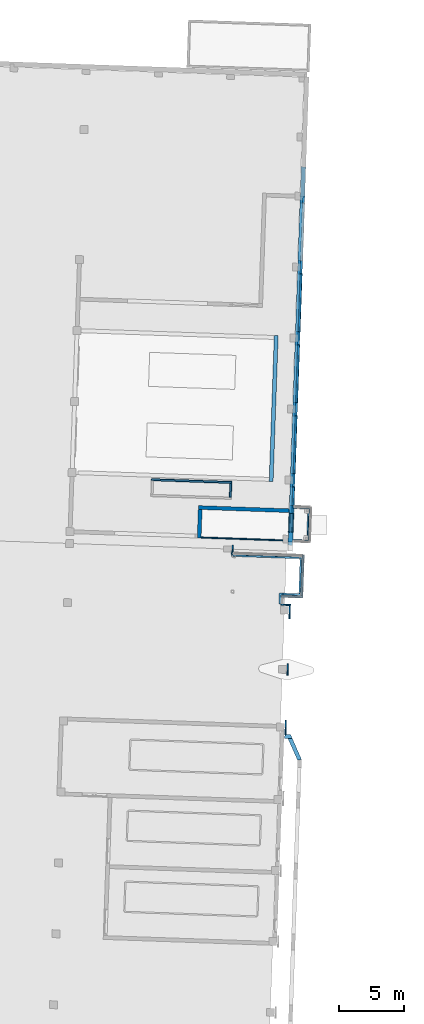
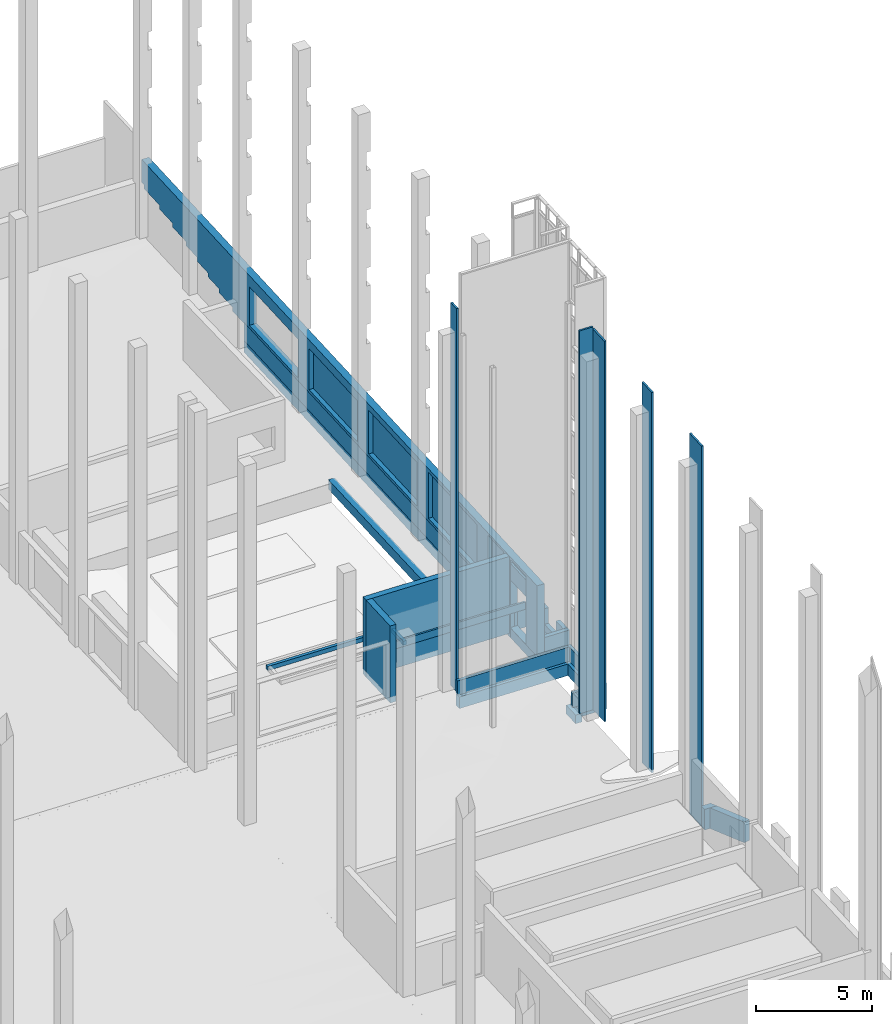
# One storey, part 37 of 44: 34 walls, 12 openings.
"""IFC2X3 building model written with IfcOpenShell, lengths in feet."""

from ifc_helpers import new_model, entity, si_unit, converted_unit, derived_unit, direction, frame, frame_2d, origin, origin_2d_with_axis, place, context, subcontext, project, spatial, polyline, rectangle, outline, extrude, clip, halfspace, material, layer, layer_set, layer_usage, type_object, element, save


model = new_model("IFC2X3")

# Units and contexts
model_context = context("Model", 3, precision=0.0001, world=origin(), true_north=direction((0.999390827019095, 0.0348994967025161)))
body_context = subcontext(model_context, "Body", "Model", "MODEL_VIEW")
ifc_project = project(units=[converted_unit("LENGTHUNIT", "FOOT", entity("IfcRatioMeasure", 0.3048), si_unit("LENGTHUNIT", "METRE"), dimensions=[1, 0, 0, 0, 0, 0, 0]), converted_unit("AREAUNIT", "SQUARE FOOT", entity("IfcRatioMeasure", 0.09290304), si_unit("AREAUNIT", "SQUARE_METRE"), dimensions=[2, 0, 0, 0, 0, 0, 0]), converted_unit("VOLUMEUNIT", "CUBIC FOOT", entity("IfcRatioMeasure", 0.028316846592), si_unit("VOLUMEUNIT", "CUBIC_METRE"), dimensions=[3, 0, 0, 0, 0, 0, 0]), converted_unit("PLANEANGLEUNIT", "DEGREE", entity("IfcRatioMeasure", 0.0174532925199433), si_unit("PLANEANGLEUNIT", "RADIAN"), dimensions=[0, 0, 0, 0, 0, 0, 0]), si_unit("MASSUNIT", "GRAM", prefix="KILO"), si_unit("TIMEUNIT", "SECOND"), si_unit("FREQUENCYUNIT", "HERTZ"), si_unit("THERMODYNAMICTEMPERATUREUNIT", "DEGREE_CELSIUS"), derived_unit("THERMALTRANSMITTANCEUNIT", [(si_unit("MASSUNIT", "GRAM", prefix="KILO"), 1), (si_unit("THERMODYNAMICTEMPERATUREUNIT", "KELVIN"), -1), (si_unit("TIMEUNIT", "SECOND"), -3)]), derived_unit("VOLUMETRICFLOWRATEUNIT", [(si_unit("LENGTHUNIT", "METRE"), 3), (si_unit("TIMEUNIT", "SECOND"), -1)]), si_unit("ELECTRICCURRENTUNIT", "AMPERE"), si_unit("ELECTRICVOLTAGEUNIT", "VOLT"), si_unit("POWERUNIT", "WATT"), si_unit("FORCEUNIT", "NEWTON"), si_unit("ILLUMINANCEUNIT", "LUX"), si_unit("LUMINOUSFLUXUNIT", "LUMEN"), si_unit("LUMINOUSINTENSITYUNIT", "CANDELA"), derived_unit("USERDEFINED", [(si_unit("MASSUNIT", "GRAM", prefix="KILO"), -1), (si_unit("LENGTHUNIT", "METRE"), -2), (si_unit("TIMEUNIT", "SECOND"), 3), (si_unit("LUMINOUSFLUXUNIT", "LUMEN"), 1)]), derived_unit("LINEARVELOCITYUNIT", [(si_unit("LENGTHUNIT", "METRE"), 1), (si_unit("TIMEUNIT", "SECOND"), -1)]), si_unit("PRESSUREUNIT", "PASCAL"), derived_unit("USERDEFINED", [(si_unit("LENGTHUNIT", "METRE"), -2), (si_unit("MASSUNIT", "GRAM", prefix="KILO"), 1), (si_unit("TIMEUNIT", "SECOND"), -2)])], contexts=[model_context])

# Site, building, storey
site_placement = place(None, frame((892.518771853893, 322.38689265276, 0.00393700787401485), z_axis=(0.0, 0.0, 1.0), x_axis=(0.0348994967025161, 0.999390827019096, 0.0)))
site = spatial("IfcSite", under=ifc_project, at=site_placement, Name="Default", CompositionType="ELEMENT")
building_placement = place(site_placement, origin())
building = spatial("IfcBuilding", under=site, at=building_placement, CompositionType="ELEMENT")
storey_placement = place(building_placement, frame((0.0, 0.0, 544.75)))
storey = spatial("IfcBuildingStorey", under=building, at=storey_placement, Name="Exist Garage - Ground Level", CompositionType="ELEMENT", Elevation=544.75)

# Wall, openings
ifc_material_1 = material(Name="Masonry - Brick")
ifc_layer_1 = layer(ifc_material_1, 0.302083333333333)
ifc_material_2 = material(Name="Misc. Air Layers - Air Space")
ifc_layer_2 = layer(ifc_material_2, 0.03125)
ifc_material_3 = material(Name="Concrete - Cast-in-Place Concrete_hatch surface")
ifc_layer_3 = layer(ifc_material_3, 0.833333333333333)
ifc_layer_set_1 = layer_set([ifc_layer_1, ifc_layer_2, ifc_layer_3], Name="Basic Wall:(existing)Exterior - Brick on Conc - 1'-2\"")
ifc_layer_usage_1 = layer_usage(ifc_layer_set_1, "AXIS2", "NEGATIVE", 0.583333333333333)
wall_type_1 = type_object("IfcWallType", Name="Basic Wall:(existing)Exterior - Brick on Conc - 1'-2\"", PredefinedType="STANDARD", material=ifc_layer_set_1)
wall_1_placement = place(storey_placement, frame((223.802293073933, 235.847286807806, 0.0), z_axis=(0.0, 0.0, 1.0), x_axis=(-1.0, 0.0, 0.0)))
wall_1 = element("IfcWallStandardCase", 1, at=wall_1_placement, inside=storey, type_object=wall_type_1, material=ifc_layer_usage_1, Name="Basic Wall:(existing)Exterior - Brick on Conc - 1'-2\"", ObjectType="Basic Wall:(existing)Exterior - Brick on Conc - 1'-2\"", context=body_context, shape_type="Clipping", body=[
    clip(clip(clip(extrude(rectangle(XDim=119.37687244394, YDim=1.16666666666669, at=frame_2d((59.68843622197, -1.16573417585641e-15), x_axis=(-1.0, 0.0))), origin(), (0.0, 0.0, 1.0), 12.2500000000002), halfspace(frame((30.8749999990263, 0.0, 2.30000000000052), z_axis=(-0.174095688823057, 0.0, -0.98472873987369), x_axis=(0.0, -1.0, 0.0)), False)), halfspace(frame((0.708333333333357, 0.0, 7.63333333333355), z_axis=(-0.685364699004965, 0.0, -0.728199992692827), x_axis=(0.0, -1.0, 0.0)), False)), halfspace(frame((47.375, 0.0, 0.0), z_axis=(-0.138059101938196, 0.0, -0.990423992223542), x_axis=(0.0, -1.0, 0.0)), False)),
])
opening_1_placement = place(wall_1_placement, origin())
element("IfcOpeningElement", 2, at=opening_1_placement, cuts=wall_1, Name="Basic Wall:(existing)Exterior - Brick on Conc - 1'-2\"", ObjectType="Opening", context=body_context, shape_type="SweptSolid", body=[
    extrude(rectangle(XDim=11.825, YDim=4.75093622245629, at=origin_2d_with_axis()), frame((113.668070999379, 0.583333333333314, 5.95416666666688), z_axis=(0.0, -1.0, 0.0), x_axis=(0.0, 0.0, 1.0)), (0.0, 0.0, 1.0), 1.16666666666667),
])
opening_2_placement = place(wall_1_placement, origin())
element("IfcOpeningElement", 3, at=opening_2_placement, cuts=wall_1, Name="Basic Wall:(existing)Exterior - Brick on Conc - 1'-2\"", ObjectType="Opening", context=body_context, shape_type="SweptSolid", body=[
    extrude(rectangle(XDim=8.22666666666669, YDim=4.75093622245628, at=frame_2d((0.0, 7.105427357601e-15), x_axis=(1.0, 0.0))), frame((106.917134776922, 0.583333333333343, 7.75333333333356), z_axis=(0.0, -1.0, 0.0), x_axis=(0.0, 0.0, 1.0)), (0.0, 0.0, 1.0), 1.16666666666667),
])
opening_3_placement = place(wall_1_placement, origin())
element("IfcOpeningElement", 4, at=opening_3_placement, cuts=wall_1, Name="Basic Wall:(existing)Exterior - Brick on Conc - 1'-2\"", ObjectType="Opening", context=body_context, shape_type="SweptSolid", body=[
    extrude(rectangle(XDim=8.00666666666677, YDim=14.6666666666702, at=frame_2d((-1.4210854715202e-14, -5.6843418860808e-14), x_axis=(0.0, 1.0))), frame((93.874999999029, 0.583333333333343, 7.64333333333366), z_axis=(0.0, -1.0, 0.0), x_axis=(1.0, 0.0, 0.0)), (0.0, 0.0, 1.0), 1.16666666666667),
])
opening_4_placement = place(wall_1_placement, origin())
element("IfcOpeningElement", 5, at=opening_4_placement, cuts=wall_1, Name="Basic Wall:(existing)Exterior - Brick on Conc - 1'-2\"", ObjectType="Opening", context=body_context, shape_type="SweptSolid", body=[
    extrude(rectangle(XDim=7.56666666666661, YDim=14.6666666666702, at=frame_2d((0.0, 0.0), x_axis=(0.0, 1.0))), frame((75.8749999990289, 0.583333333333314, 7.42333333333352), z_axis=(0.0, -1.0, 0.0), x_axis=(1.0, 0.0, 0.0)), (0.0, 0.0, 1.0), 1.16666666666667),
])
opening_5_placement = place(wall_1_placement, origin())
element("IfcOpeningElement", 6, at=opening_5_placement, cuts=wall_1, Name="Basic Wall:(existing)Exterior - Brick on Conc - 1'-2\"", ObjectType="Opening", context=body_context, shape_type="SweptSolid", body=[
    extrude(rectangle(XDim=7.11666666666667, YDim=14.6666666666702, at=frame_2d((0.0, 5.6843418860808e-14), x_axis=(0.0, 1.0))), frame((57.8749999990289, 0.583333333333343, 7.19833333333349), z_axis=(0.0, -1.0, 0.0), x_axis=(1.0, 0.0, 0.0)), (0.0, 0.0, 1.0), 1.16666666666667),
])
opening_6_placement = place(wall_1_placement, origin())
element("IfcOpeningElement", 7, at=opening_6_placement, cuts=wall_1, Name="Basic Wall:(existing)Exterior - Brick on Conc - 1'-2\"", ObjectType="Opening", context=body_context, shape_type="SweptSolid", body=[
    extrude(rectangle(XDim=6.66666666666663, YDim=14.6666666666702, at=frame_2d((0.0, -5.6843418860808e-14), x_axis=(0.0, 1.0))), frame((39.8749999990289, 0.583333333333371, 6.97333333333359), z_axis=(0.0, -1.0, 0.0), x_axis=(1.0, 0.0, 0.0)), (0.0, 0.0, 1.0), 1.16666666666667),
])
opening_7_placement = place(wall_1_placement, origin())
element("IfcOpeningElement", 8, at=opening_7_placement, cuts=wall_1, Name="Basic Wall:(existing)Exterior - Brick on Conc - 1'-2\"", ObjectType="Opening", context=body_context, shape_type="SweptSolid", body=[
    extrude(outline(polyline([(-1.53333333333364, -5.50000000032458), (0.766666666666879, -5.50000000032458), (0.766666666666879, 11.0), (-1.53333333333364, -5.50000000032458)])), frame((41.8749999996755, 0.583333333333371, 1.53333333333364), z_axis=(0.0, -1.0, 0.0), x_axis=(0.0, 0.0, 1.0)), (0.0, 0.0, 1.0), 1.16666666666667),
])
opening_8_placement = place(wall_1_placement, origin())
element("IfcOpeningElement", 9, at=opening_8_placement, cuts=wall_1, Name="Basic Wall:(existing)Exterior - Brick on Conc - 1'-2\"", ObjectType="Opening", context=body_context, shape_type="SweptSolid", body=[
    extrude(outline(polyline([(-2.82352941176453, -13.5980392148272), (-2.1568627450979, -13.5980392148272), (-2.1568627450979, -10.0980392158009), (-1.49019607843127, -10.0980392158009), (-1.49019607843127, -6.0980392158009), (-0.823529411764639, -6.0980392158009), (-0.823529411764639, -2.76470588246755), (-0.15686274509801, -2.76470588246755), (-0.15686274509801, 0.56862745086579), (0.509803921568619, 0.56862745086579), (0.509803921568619, 3.90196078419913), (1.17647058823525, 3.90196078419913), (1.17647058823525, 7.90196078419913), (1.84313725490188, 7.90196078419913), (1.84313725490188, 11.9019607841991), (2.5098039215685, 11.9019607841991), (2.5098039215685, 16.5686274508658), (-2.82352941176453, -13.5980392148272)])), frame((17.2769607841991, 0.583333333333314, 5.12352941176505), z_axis=(0.0, -1.0, 0.0), x_axis=(0.0, 0.0, 1.0)), (0.0, 0.0, 1.0), 1.16666666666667),
])
opening_9_placement = place(wall_1_placement, origin())
element("IfcOpeningElement", 10, at=opening_9_placement, cuts=wall_1, Name="Basic Wall:(existing)Exterior - Brick on Conc - 1'-2\"", ObjectType="Opening", context=body_context, shape_type="SweptSolid", body=[
    extrude(outline(polyline([(-0.444444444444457, -0.236111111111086), (0.222222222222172, -0.236111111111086), (0.222222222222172, 0.472222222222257), (-0.444444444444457, -0.236111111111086)])), frame((0.472222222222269, 0.583333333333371, 8.07777777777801), z_axis=(0.0, -1.0, 0.0), x_axis=(0.0, 0.0, 1.0)), (0.0, 0.0, 1.0), 1.16666666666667),
])

# Walls
ifc_layer_4 = layer(ifc_material_1, 0.302083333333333)
ifc_layer_set_2 = layer_set([ifc_layer_4], Name="Basic Wall:(Existing) Exterior - Brick Veneer 3 5/8\"")
ifc_layer_usage_2 = layer_usage(ifc_layer_set_2, "AXIS2", "POSITIVE", -0.151041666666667)
wall_type_2 = type_object("IfcWallType", Name="Basic Wall:(Existing) Exterior - Brick Veneer 3 5/8\"", PredefinedType="STANDARD", material=ifc_layer_set_2)
wall_2_placement = place(storey_placement, frame((102.177296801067, 250.418476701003, 0.0)))
element("IfcWallStandardCase", 11, at=wall_2_placement, inside=storey, type_object=wall_type_2, material=ifc_layer_usage_2, Name="Basic Wall:(Existing) Exterior - Brick Veneer 3 5/8\"", ObjectType="Basic Wall:(Existing) Exterior - Brick Veneer 3 5/8\"", context=body_context, shape_type="SweptSolid", body=[
    extrude(rectangle(XDim=1.75, YDim=0.302083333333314, at=frame_2d((0.875, 0.0), x_axis=(-1.0, 0.0))), origin(), (0.0, 0.0, 1.0), 66.25),
])
ifc_layer_usage_3 = layer_usage(ifc_layer_set_2, "AXIS2", "POSITIVE", -0.151041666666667)
wall_3_placement = place(storey_placement, frame((89.2762551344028, 235.566036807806, 0.0), z_axis=(0.0, 0.0, 1.0), x_axis=(0.0, 1.0, 0.0)))
element("IfcWallStandardCase", 12, at=wall_3_placement, inside=storey, type_object=wall_type_2, material=ifc_layer_usage_3, Name="Basic Wall:(Existing) Exterior - Brick Veneer 3 5/8\"", ObjectType="Basic Wall:(Existing) Exterior - Brick Veneer 3 5/8\"", context=body_context, shape_type="SweptSolid", body=[
    extrude(rectangle(XDim=2.15625000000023, YDim=0.302083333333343, at=frame_2d((1.07812500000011, 0.0), x_axis=(-1.0, 0.0))), origin(), (0.0, 0.0, 1.0), 66.25),
])
ifc_layer_usage_4 = layer_usage(ifc_layer_set_2, "AXIS2", "POSITIVE", -0.151041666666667)
wall_4_placement = place(storey_placement, frame((85.7606301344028, 235.41499514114, 0.0)))
element("IfcWallStandardCase", 13, at=wall_4_placement, inside=storey, type_object=wall_type_2, material=ifc_layer_usage_4, Name="Basic Wall:(Existing) Exterior - Brick Veneer 3 5/8\"", ObjectType="Basic Wall:(Existing) Exterior - Brick Veneer 3 5/8\"", context=body_context, shape_type="SweptSolid", body=[
    extrude(rectangle(XDim=3.66666666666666, YDim=0.302083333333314, at=frame_2d((1.83333333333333, 0.0), x_axis=(-1.0, 0.0))), origin(), (0.0, 0.0, 1.0), 65.8125),
])
ifc_layer_usage_5 = layer_usage(ifc_layer_set_2, "AXIS2", "POSITIVE", -0.151041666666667)
wall_5_placement = place(storey_placement, frame((56.4272542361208, 235.41499514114, 0.0)))
element("IfcWallStandardCase", 14, at=wall_5_placement, inside=storey, type_object=wall_type_2, material=ifc_layer_usage_5, Name="Basic Wall:(Existing) Exterior - Brick Veneer 3 5/8\"", ObjectType="Basic Wall:(Existing) Exterior - Brick Veneer 3 5/8\"", context=body_context, shape_type="SweptSolid", body=[
    extrude(rectangle(XDim=3.66666666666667, YDim=0.302083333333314, at=frame_2d((1.83333333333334, 0.0), x_axis=(-1.0, 0.0))), origin(), (0.0, 0.0, 1.0), 65.8125),
])
ifc_layer_usage_6 = layer_usage(ifc_layer_set_2, "AXIS2", "POSITIVE", -0.151041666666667)
wall_6_placement = place(storey_placement, frame((71.4272968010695, 235.41499514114, 0.0)))
element("IfcWallStandardCase", 15, at=wall_6_placement, inside=storey, type_object=wall_type_2, material=ifc_layer_usage_6, Name="Basic Wall:(Existing) Exterior - Brick Veneer 3 5/8\"", ObjectType="Basic Wall:(Existing) Exterior - Brick Veneer 3 5/8\"", context=body_context, shape_type="SweptSolid", body=[
    extrude(rectangle(XDim=3.00000000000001, YDim=0.302083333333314, at=frame_2d((1.50000000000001, 0.0), x_axis=(-1.0, 0.0))), origin(), (0.0, 0.0, 1.0), 65.8125),
])
ifc_layer_5 = layer(ifc_material_1, 0.302083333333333)
ifc_material_4 = material(Name="Insulation / Thermal Barriers - Rigid insulation")
ifc_layer_6 = layer(ifc_material_4, 0.0625)
ifc_material_5 = material(Name="Masonry - Concrete Masonry Units")
ifc_layer_7 = layer(ifc_material_5, 0.635416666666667)
ifc_layer_set_3 = layer_set([ifc_layer_5, ifc_layer_6, ifc_layer_7], Name="Basic Wall:(existing) Exterior - Brick on CMU - 1'-0\"")
ifc_layer_usage_7 = layer_usage(ifc_layer_set_3, "AXIS2", "NEGATIVE", 0.5)
wall_type_3 = type_object("IfcWallType", Name="Basic Wall:(existing) Exterior - Brick on CMU - 1'-0\"", PredefinedType="STANDARD", material=ifc_layer_set_3)
wall_7_placement = place(storey_placement, frame((55.9272542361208, 235.566036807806, 0.0), z_axis=(0.0, 0.0, 1.0), x_axis=(0.0, -1.0, 0.0)))
element("IfcWallStandardCase", 16, at=wall_7_placement, inside=storey, type_object=wall_type_3, material=ifc_layer_usage_7, Name="Basic Wall:(existing) Exterior - Brick on CMU - 1'-0\"", ObjectType="Basic Wall:(existing) Exterior - Brick on CMU - 1'-0\"", context=body_context, shape_type="SweptSolid", body=[
    extrude(outline(polyline([(1.95523648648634, -0.5), (1.46874999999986, 0.5), (0.302083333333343, 0.5), (0.0, 0.5), (0.0, -0.5), (0.843180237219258, -0.5), (1.95523648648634, -0.5)])), origin(), (0.0, 0.0, 1.0), 3.580078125),
])
ifc_layer_usage_8 = layer_usage(ifc_layer_set_3, "AXIS2", "NEGATIVE", 0.5)
wall_8_placement = place(storey_placement, frame((55.6459870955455, 234.273239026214, 0.0), z_axis=(0.0, 0.0, 1.0), x_axis=(-0.899235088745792, -0.437465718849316, 0.0)))
element("IfcWallStandardCase", 17, at=wall_8_placement, inside=storey, type_object=wall_type_3, material=ifc_layer_usage_8, Name="Basic Wall:(existing) Exterior - Brick on CMU - 1'-0\"", ObjectType="Basic Wall:(existing) Exterior - Brick on CMU - 1'-0\"", context=body_context, shape_type="SweptSolid", body=[
    extrude(outline(polyline([(6.00177259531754, -0.5), (6.2321104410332, 0.500000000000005), (0.486486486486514, 0.500000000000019), (0.0, -0.500000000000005), (6.00177259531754, -0.5)])), origin(), (0.0, 0.0, 1.0), 3.580078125),
])

# Wall, opening
ifc_material_6 = material(Name="Concrete - Cast-in-Place Concrete")
ifc_layer_8 = layer(ifc_material_6, 1.16666666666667)
ifc_layer_set_4 = layer_set([ifc_layer_8], Name="Basic Wall:(existing) Exterior - Below Grade Conc 14\"")
ifc_layer_usage_9 = layer_usage(ifc_layer_set_4, "AXIS2", "NEGATIVE", 0.583333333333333)
wall_type_4 = type_object("IfcWallType", Name="Basic Wall:(existing) Exterior - Below Grade Conc 14\"", PredefinedType="STANDARD", material=ifc_layer_set_4)
wall_9_placement = place(storey_placement, frame((192.927293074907, 235.847286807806, -2.01999999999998), z_axis=(0.0, 0.0, 1.0), x_axis=(-1.0, 0.0, 0.0)))
wall_9 = element("IfcWallStandardCase", 18, at=wall_9_placement, inside=storey, type_object=wall_type_4, material=ifc_layer_usage_9, Name="Basic Wall:(existing) Exterior - Below Grade Conc 14\"", ObjectType="Basic Wall:(existing) Exterior - Below Grade Conc 14\"", context=body_context, shape_type="Clipping", body=[
    clip(extrude(rectangle(XDim=80.4176028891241, YDim=1.16666666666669, at=frame_2d((40.2088014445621, 0.0), x_axis=(-1.0, 0.0))), origin(), (0.0, 0.0, 1.0), 2.01999999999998), halfspace(frame((68.0009362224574, 0.0, 0.0), z_axis=(0.0284448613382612, 0.0, -0.999595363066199), x_axis=(0.0, 1.0, 0.0)), False)),
])
opening_10_placement = place(wall_9_placement, origin())
element("IfcOpeningElement", 19, at=opening_10_placement, cuts=wall_9, Name="Basic Wall:(existing) Exterior - Below Grade Conc 14\"", ObjectType="Opening", context=body_context, shape_type="SweptSolid", body=[
    extrude(outline(polyline([(-4.14391448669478, -0.117730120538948), (8.27777845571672, -0.117730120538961), (-4.13386396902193, 0.235460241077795), (-4.14391448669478, -0.117730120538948)])), frame((72.1398251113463, 0.583333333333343, 0.235555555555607), z_axis=(0.0, -1.0, 0.0), x_axis=(0.999595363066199, 0.0, 0.0284448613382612)), (0.0, 0.0, 1.0), 1.16666666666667),
])

# Walls
ifc_layer_usage_10 = layer_usage(ifc_layer_set_4, "AXIS2", "POSITIVE", -0.583333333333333)
wall_10_placement = place(storey_placement, frame((105.260626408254, 235.847286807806, -1.66666666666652)))
element("IfcWallStandardCase", 20, at=wall_10_placement, inside=storey, type_object=wall_type_4, material=ifc_layer_usage_10, Name="Basic Wall:(existing) Exterior - Below Grade Conc 14\"", ObjectType="Basic Wall:(existing) Exterior - Below Grade Conc 14\"", context=body_context, shape_type="SweptSolid", body=[
    extrude(rectangle(XDim=7.24906377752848, YDim=1.16666666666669, at=frame_2d((3.62453188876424, 0.0), x_axis=(-1.0, 0.0))), origin(), (0.0, 0.0, 1.0), 1.66666666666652),
])
ifc_layer_9 = layer(ifc_material_3, 0.5)
ifc_layer_set_5 = layer_set([ifc_layer_9], Name="Basic Wall:(existing)Exterior - 6\" Conc")
ifc_layer_usage_11 = layer_usage(ifc_layer_set_5, "AXIS2", "NEGATIVE", 0.25)
wall_type_5 = type_object("IfcWallType", Name="Basic Wall:(existing)Exterior - 6\" Conc", PredefinedType="STANDARD", material=ifc_layer_set_5)
wall_11_placement = place(storey_placement, frame((91.4897968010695, 232.263953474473, -0.25), z_axis=(0.0, 0.0, 1.0), x_axis=(0.0, 1.0, 0.0)))
element("IfcWallStandardCase", 21, at=wall_11_placement, inside=storey, type_object=wall_type_5, material=ifc_layer_usage_11, Name="Basic Wall:(existing)Exterior - 6\" Conc", ObjectType="Basic Wall:(existing)Exterior - 6\" Conc", context=body_context, shape_type="SweptSolid", body=[
    extrude(rectangle(XDim=5.45833333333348, YDim=0.5, at=frame_2d((2.72916666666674, 0.0), x_axis=(-1.0, 0.0))), origin(), (0.0, 0.0, 1.0), 2.5),
])
ifc_layer_usage_12 = layer_usage(ifc_layer_set_5, "AXIS2", "POSITIVE", -0.25)
wall_12_placement = place(storey_placement, frame((91.7397968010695, 232.513953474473, -0.25)))
element("IfcWallStandardCase", 22, at=wall_12_placement, inside=storey, type_object=wall_type_5, material=ifc_layer_usage_12, Name="Basic Wall:(existing)Exterior - 6\" Conc", ObjectType="Basic Wall:(existing)Exterior - 6\" Conc", context=body_context, shape_type="SweptSolid", body=[
    extrude(rectangle(XDim=10.3333333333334, YDim=0.5, at=frame_2d((5.16666666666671, -6.80011602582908e-16), x_axis=(-1.0, 0.0))), origin(), (0.0, 0.0, 1.0), 2.5),
])
ifc_layer_usage_13 = layer_usage(ifc_layer_set_5, "AXIS2", "POSITIVE", -0.25)
wall_13_placement = place(storey_placement, frame((101.823130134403, 232.763953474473, -0.25), z_axis=(0.0, 0.0, 1.0), x_axis=(0.0, 1.0, 0.0)))
element("IfcWallStandardCase", 23, at=wall_13_placement, inside=storey, type_object=wall_type_5, material=ifc_layer_usage_13, Name="Basic Wall:(existing)Exterior - 6\" Conc", ObjectType="Basic Wall:(existing)Exterior - 6\" Conc", context=body_context, shape_type="SweptSolid", body=[
    extrude(rectangle(XDim=17.9166666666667, YDim=0.5, at=frame_2d((8.95833333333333, -3.88578058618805e-16), x_axis=(-1.0, 0.0))), origin(), (0.0, 0.0, 1.0), 2.5),
])
ifc_layer_10 = layer(ifc_material_3, 1.0)
ifc_layer_set_6 = layer_set([ifc_layer_10], Name="Basic Wall:(existing)Exterior - 12\" Conc")
ifc_layer_usage_14 = layer_usage(ifc_layer_set_6, "AXIS2", "POSITIVE", -0.5)
wall_type_6 = type_object("IfcWallType", Name="Basic Wall:(existing)Exterior - 12\" Conc", PredefinedType="STANDARD", material=ifc_layer_set_6)
wall_14_placement = place(storey_placement, frame((89.4272968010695, 237.722286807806, -1.75)))
element("IfcWallStandardCase", 24, at=wall_14_placement, inside=storey, type_object=wall_type_6, material=ifc_layer_usage_14, Name="Basic Wall:(existing)Exterior - 12\" Conc", ObjectType="Basic Wall:(existing)Exterior - 12\" Conc", context=body_context, shape_type="SweptSolid", body=[
    extrude(rectangle(XDim=2.81250000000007, YDim=1.0, at=frame_2d((1.40625000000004, 0.0), x_axis=(-1.0, 0.0))), origin(), (0.0, 0.0, 1.0), 1.5),
])
ifc_layer_usage_15 = layer_usage(ifc_layer_set_6, "AXIS2", "POSITIVE", -0.5)
wall_15_placement = place(storey_placement, frame((91.7397968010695, 237.222286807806, -2.25), z_axis=(0.0, 0.0, 1.0), x_axis=(0.0, -1.0, 0.0)))
element("IfcWallStandardCase", 25, at=wall_15_placement, inside=storey, type_object=wall_type_6, material=ifc_layer_usage_15, Name="Basic Wall:(existing)Exterior - 12\" Conc", ObjectType="Basic Wall:(existing)Exterior - 12\" Conc", context=body_context, shape_type="SweptSolid", body=[
    extrude(rectangle(XDim=4.95833333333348, YDim=1.0, at=frame_2d((2.47916666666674, 0.0), x_axis=(-1.0, 0.0))), origin(), (0.0, 0.0, 1.0), 2.0),
])
ifc_layer_usage_16 = layer_usage(ifc_layer_set_6, "AXIS2", "POSITIVE", -0.5)
wall_16_placement = place(storey_placement, frame((92.2397968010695, 232.763953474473, -2.25)))
element("IfcWallStandardCase", 26, at=wall_16_placement, inside=storey, type_object=wall_type_6, material=ifc_layer_usage_16, Name="Basic Wall:(existing)Exterior - 12\" Conc", ObjectType="Basic Wall:(existing)Exterior - 12\" Conc", context=body_context, shape_type="SweptSolid", body=[
    extrude(rectangle(XDim=9.85416666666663, YDim=1.0, at=frame_2d((4.92708333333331, -1.33226762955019e-15), x_axis=(-1.0, 0.0))), origin(), (0.0, 0.0, 1.0), 2.0),
])
ifc_layer_usage_17 = layer_usage(ifc_layer_set_6, "AXIS2", "POSITIVE", -0.5)
wall_17_placement = place(storey_placement, frame((101.593963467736, 233.263953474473, -2.25), z_axis=(0.0, 0.0, 1.0), x_axis=(0.0, 1.0, 0.0)))
element("IfcWallStandardCase", 27, at=wall_17_placement, inside=storey, type_object=wall_type_6, material=ifc_layer_usage_17, Name="Basic Wall:(existing)Exterior - 12\" Conc", ObjectType="Basic Wall:(existing)Exterior - 12\" Conc", context=body_context, shape_type="SweptSolid", body=[
    extrude(rectangle(XDim=17.4166666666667, YDim=1.0, at=frame_2d((8.70833333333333, -7.7715611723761e-16), x_axis=(-1.0, 0.0))), origin(), (0.0, 0.0, 1.0), 2.0),
])
ifc_layer_11 = layer(ifc_material_5, 0.96875)
ifc_layer_set_7 = layer_set([ifc_layer_11], Name="Basic Wall:Interior - (C12) 12\" cmu")
ifc_layer_usage_18 = layer_usage(ifc_layer_set_7, "AXIS2", "NEGATIVE", 0.484375)
wall_type_7 = type_object("IfcWallType", Name="Basic Wall:Interior - (C12) 12\" cmu", PredefinedType="STANDARD", material=ifc_layer_set_7)
wall_18_placement = place(storey_placement, frame((113.1786396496, 236.493120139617, -1.0776113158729), z_axis=(0.0, 0.0, 1.0), x_axis=(0.0, 1.0, 0.0)))
element("IfcWallStandardCase", 28, at=wall_18_placement, inside=storey, type_object=wall_type_7, material=ifc_layer_usage_18, Name="Basic Wall:Interior - (C12) 12\" cmu", ObjectType="Basic Wall:Interior - (C12) 12\" cmu", context=body_context, shape_type="SweptSolid", body=[
    extrude(rectangle(XDim=22.9840452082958, YDim=0.96875, at=frame_2d((11.4920226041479, 3.3584246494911e-15), x_axis=(-1.0, 0.0))), origin(), (0.0, 0.0, 1.0), 13.3276113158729),
])
ifc_layer_usage_19 = layer_usage(ifc_layer_set_7, "AXIS2", "NEGATIVE", 0.484375)
wall_19_placement = place(storey_placement, frame((112.6942646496, 258.992790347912, -1.0776113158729), z_axis=(0.0, 0.0, 1.0), x_axis=(-1.0, 0.0, 0.0)))
element("IfcWallStandardCase", 29, at=wall_19_placement, inside=storey, type_object=wall_type_7, material=ifc_layer_usage_19, Name="Basic Wall:Interior - (C12) 12\" cmu", ObjectType="Basic Wall:Interior - (C12) 12\" cmu", context=body_context, shape_type="SweptSolid", body=[
    extrude(rectangle(XDim=7.2513465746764, YDim=0.96875, at=frame_2d((3.6256732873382, 9.82547376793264e-15), x_axis=(-1.0, 0.0))), origin(), (0.0, 0.0, 1.0), 13.3276113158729),
])
ifc_layer_12 = layer(ifc_material_6, 0.666666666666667)
ifc_layer_set_8 = layer_set([ifc_layer_12], Name="Basic Wall:Exterior - Conc 8\"")
ifc_layer_usage_20 = layer_usage(ifc_layer_set_8, "AXIS2", "NEGATIVE", 0.333333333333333)
wall_type_8 = type_object("IfcWallType", Name="Basic Wall:Exterior - Conc 8\"", PredefinedType="STANDARD", material=ifc_layer_set_8)
wall_20_placement = place(storey_placement, frame((114.093963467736, 235.498328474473, -1.66666666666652), z_axis=(0.0, 0.0, 1.0), x_axis=(0.0, -1.0, 0.0)))
element("IfcWallStandardCase", 30, at=wall_20_placement, inside=storey, type_object=wall_type_8, material=ifc_layer_usage_20, Name="Basic Wall:Exterior - Conc 8\"", ObjectType="Basic Wall:Exterior - Conc 8\"", context=body_context, shape_type="SweptSolid", body=[
    extrude(rectangle(XDim=4.73437500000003, YDim=0.666666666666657, at=frame_2d((2.36718750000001, 0.0), x_axis=(-1.0, 0.0))), origin(), (0.0, 0.0, 1.0), 3.91666666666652),
])
ifc_layer_usage_21 = layer_usage(ifc_layer_set_8, "AXIS2", "NEGATIVE", 0.333333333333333)
wall_21_placement = place(storey_placement, frame((105.593959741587, 230.763953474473, -1.66666666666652), z_axis=(0.0, 0.0, 1.0), x_axis=(0.0, 1.0, 0.0)))
element("IfcWallStandardCase", 31, at=wall_21_placement, inside=storey, type_object=wall_type_8, material=ifc_layer_usage_21, Name="Basic Wall:Exterior - Conc 8\"", ObjectType="Basic Wall:Exterior - Conc 8\"", context=body_context, shape_type="SweptSolid", body=[
    extrude(rectangle(XDim=4.50000000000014, YDim=0.666666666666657, at=frame_2d((2.25000000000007, 0.0), x_axis=(-1.0, 0.0))), origin(), (0.0, 0.0, 1.0), 3.91666666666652),
])
ifc_layer_usage_22 = layer_usage(ifc_layer_set_8, "AXIS2", "NEGATIVE", 0.333333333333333)
wall_22_placement = place(storey_placement, frame((192.927293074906, 236.097286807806, 0.0), z_axis=(0.0, 0.0, 1.0), x_axis=(-1.0, 0.0, 0.0)))
element("IfcWallStandardCase", 32, at=wall_22_placement, inside=storey, type_object=wall_type_8, material=ifc_layer_usage_22, Name="Basic Wall:Exterior - Conc 8\"", ObjectType="Basic Wall:Exterior - Conc 8\"", context=body_context, shape_type="SweptSolid", body=[
    extrude(rectangle(XDim=80.4176028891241, YDim=0.666666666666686, at=frame_2d((40.208801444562, 0.0), x_axis=(-1.0, 0.0))), origin(), (0.0, 0.0, 1.0), 3.14583333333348),
])

# Wall, opening
ifc_layer_usage_23 = layer_usage(ifc_layer_set_8, "AXIS2", "NEGATIVE", 0.333333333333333)
wall_23_placement = place(storey_placement, frame((113.760630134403, 231.097286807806, -1.66666666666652), z_axis=(0.0, 0.0, 1.0), x_axis=(-1.0, 0.0, 0.0)))
wall_23 = element("IfcWallStandardCase", 33, at=wall_23_placement, inside=storey, type_object=wall_type_8, material=ifc_layer_usage_23, Name="Basic Wall:Exterior - Conc 8\"", ObjectType="Basic Wall:Exterior - Conc 8\"", context=body_context, shape_type="SweptSolid", body=[
    extrude(rectangle(XDim=7.83333705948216, YDim=0.666666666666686, at=frame_2d((3.91666852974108, 4.32986979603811e-15), x_axis=(-1.0, 0.0))), origin(), (0.0, 0.0, 1.0), 3.91666666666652),
])
opening_11_placement = place(wall_23_placement, origin())
element("IfcOpeningElement", 34, at=opening_11_placement, cuts=wall_23, Name="Basic Wall:Exterior - Conc 8\"", ObjectType="Opening", context=body_context, shape_type="SweptSolid", body=[
    extrude(rectangle(XDim=2.70833333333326, YDim=3.41666666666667, at=frame_2d((-7.105427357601e-15, 0.0), x_axis=(0.0, 1.0))), frame((3.91666852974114, 0.333333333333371, 2.56249999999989), z_axis=(0.0, -1.0, 0.0), x_axis=(-1.0, 0.0, 0.0)), (0.0, 0.0, 1.0), 0.666666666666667),
])

ifc_layer_13 = layer(ifc_material_6, 1.0)
ifc_layer_set_9 = layer_set([ifc_layer_13], Name="Basic Wall:Exterior - Below Grade Conc 12\"")
ifc_layer_usage_24 = layer_usage(ifc_layer_set_9, "AXIS2", "NEGATIVE", 0.5)
wall_type_9 = type_object("IfcWallType", Name="Basic Wall:Exterior - Below Grade Conc 12\"", PredefinedType="STANDARD", material=ifc_layer_set_9)
wall_24_placement = place(storey_placement, frame((157.427386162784, 241.263953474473, -2.0), z_axis=(0.0, 0.0, 1.0), x_axis=(-1.0, 0.0, 0.0)))
wall_24 = element("IfcWallStandardCase", 35, at=wall_24_placement, inside=storey, type_object=wall_type_9, material=ifc_layer_usage_24, Name="Basic Wall:Exterior - Below Grade Conc 12\"", ObjectType="Basic Wall:Exterior - Below Grade Conc 12\"", context=body_context, shape_type="Clipping", body=[
    clip(clip(extrude(rectangle(XDim=37.0, YDim=1.0, at=frame_2d((18.5, 1.55431223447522e-15), x_axis=(-1.0, 0.0))), origin(), (0.0, 0.0, 1.0), 1.7756663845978), halfspace(frame((0.0, -0.5, 1.62088154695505), z_axis=(-0.00418333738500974, 0.0, 0.999991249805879), x_axis=(0.0, 1.0, 0.0)), False)), halfspace(frame((32.5, 0.0, 0.0), z_axis=(0.083045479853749, 0.0, -0.996545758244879), x_axis=(0.0, 1.0, 0.0)), False)),
])
opening_12_placement = place(wall_24_placement, origin())
element("IfcOpeningElement", 36, at=opening_12_placement, cuts=wall_24, Name="Basic Wall:Exterior - Below Grade Conc 12\"", ObjectType="Opening", context=body_context, shape_type="SweptSolid", body=[
    extrude(outline(polyline([(-1.34718222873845, -0.110727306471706), (2.666682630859, -0.110727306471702), (-1.31950040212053, 0.221454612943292), (-1.34718222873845, -0.110727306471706)])), frame((33.8333333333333, 0.5, 0.222222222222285), z_axis=(0.0, -1.0, 0.0), x_axis=(0.996545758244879, 0.0, 0.083045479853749)), (0.0, 0.0, 1.0), 1.0),
])

# Walls
ifc_layer_usage_25 = layer_usage(ifc_layer_set_9, "AXIS2", "NEGATIVE", 0.5)
wall_25_placement = place(storey_placement, frame((114.427296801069, 231.263953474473, -4.16666666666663), z_axis=(0.0, 0.0, 1.0), x_axis=(-1.0, 0.0, 0.0)))
element("IfcWallStandardCase", 37, at=wall_25_placement, inside=storey, type_object=wall_type_9, material=ifc_layer_usage_25, Name="Basic Wall:Exterior - Below Grade Conc 12\"", ObjectType="Basic Wall:Exterior - Below Grade Conc 12\"", context=body_context, shape_type="SweptSolid", body=[
    extrude(rectangle(XDim=9.1666703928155, YDim=1.0, at=frame_2d((4.58333519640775, 7.49400541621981e-15), x_axis=(-1.0, 0.0))), origin(), (0.0, 0.0, 1.0), 2.5),
])
ifc_layer_14 = layer(ifc_material_6, 0.5)
ifc_layer_set_10 = layer_set([ifc_layer_14], Name="Basic Wall:Exterior - Conc 6\"")
ifc_layer_usage_26 = layer_usage(ifc_layer_set_10, "AXIS2", "NEGATIVE", 0.25)
wall_type_10 = type_object("IfcWallType", Name="Basic Wall:Exterior - Conc 6\"", PredefinedType="STANDARD", material=ifc_layer_set_10)
wall_26_placement = place(storey_placement, frame((119.81685518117, 271.594836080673, -0.237229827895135), z_axis=(0.0, 0.0, 1.0), x_axis=(0.0, -1.0, 0.0)))
element("IfcWallStandardCase", 38, at=wall_26_placement, inside=storey, type_object=wall_type_10, material=ifc_layer_usage_26, Name="Basic Wall:Exterior - Conc 6\"", ObjectType="Basic Wall:Exterior - Conc 6\"", context=body_context, shape_type="SweptSolid", body=[
    extrude(rectangle(XDim=20.375, YDim=0.5, at=frame_2d((10.1875, 7.21644966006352e-16), x_axis=(-1.0, 0.0))), origin(), (0.0, 0.0, 1.0), 0.737229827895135),
])
ifc_layer_usage_27 = layer_usage(ifc_layer_set_10, "AXIS2", "NEGATIVE", 0.25)
wall_27_placement = place(storey_placement, frame((119.56685518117, 251.469836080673, -0.213136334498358), z_axis=(0.0, 0.0, 1.0), x_axis=(-1.0, 0.0, 0.0)))
element("IfcWallStandardCase", 39, at=wall_27_placement, inside=storey, type_object=wall_type_10, material=ifc_layer_usage_27, Name="Basic Wall:Exterior - Conc 6\"", ObjectType="Basic Wall:Exterior - Conc 6\"", context=body_context, shape_type="SweptSolid", body=[
    extrude(rectangle(XDim=3.50000000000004, YDim=0.5, at=frame_2d((1.75000000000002, 0.0), x_axis=(-1.0, 0.0))), origin(), (0.0, 0.0, 1.0), 0.713136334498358),
])
ifc_material_7 = material(Name="Finishes - Interior - Gypsum Wall Board")
ifc_layer_15 = layer(ifc_material_7, 0.0833333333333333)
ifc_material_8 = material(Name="Metal - Stud Layer_rated")
ifc_layer_16 = layer(ifc_material_8, 0.125)
ifc_layer_17 = layer(ifc_material_7, 0.0520833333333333)
ifc_layer_18 = layer(ifc_material_7, 0.0520833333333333)
ifc_layer_set_11 = layer_set([ifc_layer_15, ifc_layer_16, ifc_layer_17, ifc_layer_18], Name="Basic Wall:Interior - (S4) 2 hour rated shaft wall")
ifc_layer_usage_28 = layer_usage(ifc_layer_set_11, "AXIS2", "NEGATIVE", 0.15625)
wall_type_11 = type_object("IfcWallType", Name="Basic Wall:Interior - (S4) 2 hour rated shaft wall", PredefinedType="STANDARD", material=ifc_layer_set_11)
wall_28_placement = place(storey_placement, frame((105.599168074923, 258.508415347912, 8.0), z_axis=(0.0, 0.0, 1.0), x_axis=(0.0, -1.0, 0.0)))
element("IfcWallStandardCase", 40, at=wall_28_placement, inside=storey, type_object=wall_type_11, material=ifc_layer_usage_28, Name="Basic Wall:Interior - (S4) 2 hour rated shaft wall", ObjectType="Basic Wall:Interior - (S4) 2 hour rated shaft wall", context=body_context, shape_type="SweptSolid", body=[
    extrude(rectangle(XDim=20.7444618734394, YDim=0.3125, at=frame_2d((10.3722309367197, 1.2490009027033e-16), x_axis=(-1.0, 0.0))), origin(), (0.0, 0.0, 1.0), 1.27994791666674),
])
ifc_layer_usage_29 = layer_usage(ifc_layer_set_11, "AXIS2", "NEGATIVE", 0.15625)
wall_29_placement = place(storey_placement, frame((107.758753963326, 235.420203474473, 8.0)))
element("IfcWallStandardCase", 41, at=wall_29_placement, inside=storey, type_object=wall_type_11, material=ifc_layer_usage_29, Name="Basic Wall:Interior - (S4) 2 hour rated shaft wall", ObjectType="Basic Wall:Interior - (S4) 2 hour rated shaft wall", context=body_context, shape_type="SweptSolid", body=[
    extrude(rectangle(XDim=4.75093622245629, YDim=0.3125, at=frame_2d((2.37546811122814, -2.12330153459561e-15), x_axis=(-1.0, 0.0))), origin(), (0.0, 0.0, 1.0), 3.19791666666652),
])
ifc_layer_usage_30 = layer_usage(ifc_layer_set_11, "AXIS2", "POSITIVE", -0.15625)
wall_30_placement = place(storey_placement, frame((107.758753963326, 236.27437014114, 8.3125)))
element("IfcWallStandardCase", 42, at=wall_30_placement, inside=storey, type_object=wall_type_11, material=ifc_layer_usage_30, Name="Basic Wall:Interior - (S4) 2 hour rated shaft wall", ObjectType="Basic Wall:Interior - (S4) 2 hour rated shaft wall", context=body_context, shape_type="SweptSolid", body=[
    extrude(rectangle(XDim=4.75093622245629, YDim=0.3125, at=frame_2d((2.37546811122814, -4.9960036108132e-15), x_axis=(-1.0, 0.0))), origin(), (0.0, 0.0, 1.0), 2.88541666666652),
])
ifc_material_9 = material(Name="Masonry - Concrete Masonry Units_rated")
ifc_layer_19 = layer(ifc_material_9, 0.46875)
ifc_layer_set_12 = layer_set([ifc_layer_19], Name="Basic Wall:Interior - (C6) 6\" cmu_rated 2")
ifc_layer_usage_31 = layer_usage(ifc_layer_set_12, "AXIS2", "POSITIVE", -0.234375)
wall_type_12 = type_object("IfcWallType", Name="Basic Wall:Interior - (C6) 6\" cmu_rated 2", PredefinedType="STANDARD", material=ifc_layer_set_12)
wall_31_placement = place(storey_placement, frame((114.427293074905, 235.498328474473, 3.63999999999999)))
element("IfcWallStandardCase", 43, at=wall_31_placement, inside=storey, type_object=wall_type_12, material=ifc_layer_usage_31, Name="Basic Wall:Interior - (C6) 6\" cmu_rated 2", ObjectType="Basic Wall:Interior - (C6) 6\" cmu_rated 2", context=body_context, shape_type="SweptSolid", body=[
    extrude(rectangle(XDim=4.83333333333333, YDim=0.46875, at=frame_2d((2.41666666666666, -6.93889390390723e-16), x_axis=(-1.0, 0.0))), origin(), (0.0, 0.0, 1.0), 7.55791666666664),
])
ifc_layer_usage_32 = layer_usage(ifc_layer_set_12, "AXIS2", "POSITIVE", -0.234375)
wall_32_placement = place(storey_placement, frame((122.593959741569, 235.498328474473, 3.63999999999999)))
element("IfcWallStandardCase", 44, at=wall_32_placement, inside=storey, type_object=wall_type_12, material=ifc_layer_usage_32, Name="Basic Wall:Interior - (C6) 6\" cmu_rated 2", ObjectType="Basic Wall:Interior - (C6) 6\" cmu_rated 2", context=body_context, shape_type="SweptSolid", body=[
    extrude(rectangle(XDim=14.6666666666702, YDim=0.46875, at=frame_2d((7.33333333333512, 0.0), x_axis=(-1.0, 0.0))), origin(), (0.0, 0.0, 1.0), 7.3287499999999),
])
ifc_layer_usage_33 = layer_usage(ifc_layer_set_12, "AXIS2", "POSITIVE", -0.234375)
wall_33_placement = place(storey_placement, frame((140.593959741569, 235.498328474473, 3.63999999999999)))
element("IfcWallStandardCase", 45, at=wall_33_placement, inside=storey, type_object=wall_type_12, material=ifc_layer_usage_33, Name="Basic Wall:Interior - (C6) 6\" cmu_rated 2", ObjectType="Basic Wall:Interior - (C6) 6\" cmu_rated 2", context=body_context, shape_type="SweptSolid", body=[
    extrude(rectangle(XDim=14.6666666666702, YDim=0.46875, at=frame_2d((7.33333333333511, 0.0), x_axis=(-1.0, 0.0))), origin(), (0.0, 0.0, 1.0), 6.8912499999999),
])
ifc_layer_usage_34 = layer_usage(ifc_layer_set_12, "AXIS2", "POSITIVE", -0.234375)
wall_34_placement = place(storey_placement, frame((158.593959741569, 235.498328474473, 3.6400000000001)))
element("IfcWallStandardCase", 46, at=wall_34_placement, inside=storey, type_object=wall_type_12, material=ifc_layer_usage_34, Name="Basic Wall:Interior - (C6) 6\" cmu_rated 2", ObjectType="Basic Wall:Interior - (C6) 6\" cmu_rated 2", context=body_context, shape_type="SweptSolid", body=[
    extrude(rectangle(XDim=14.6666666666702, YDim=0.46875, at=frame_2d((7.33333333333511, 0.0), x_axis=(-1.0, 0.0))), origin(), (0.0, 0.0, 1.0), 6.44333333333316),
])

save(model, "model.ifc")
